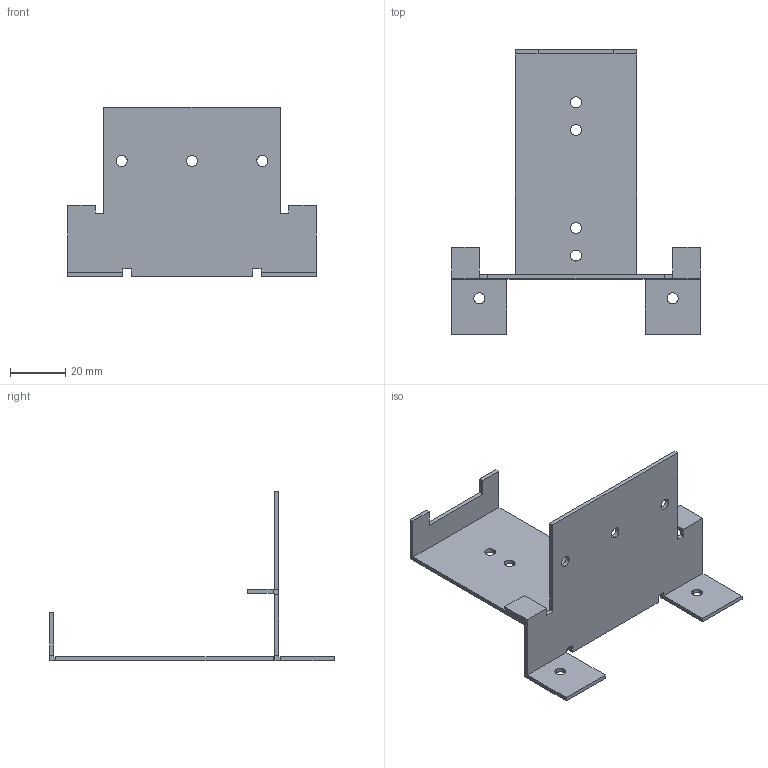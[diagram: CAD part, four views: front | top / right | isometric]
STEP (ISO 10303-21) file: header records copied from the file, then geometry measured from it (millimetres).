
FILE_DESCRIPTION(('Open CASCADE Model'),'2;1');
FILE_NAME('Open CASCADE Shape Model','2026-02-10T10:58:42',('Author'),( 'Open CASCADE'),'Open CASCADE STEP processor 7.8','Open CASCADE 7.8' ,'Unknown');
FILE_SCHEMA(('AUTOMOTIVE_DESIGN { 1 0 10303 214 1 1 1 1 }'));
Length unit declared in the file: millimetre
Products named in the file (1): Solid1
Bounding box: 90 x 103 x 61.5 mm (x, y, z)
Volume: 14381.9 mm3; surface area: 20326.5 mm2
Topology: 1 solids, 1 shells, 80 faces, 234 edges, 156 vertices
Faces by surface type: plane 62, cylinder 18
Entity records: 2680 total; most frequent: CARTESIAN_POINT 471, ORIENTED_EDGE 468, DIRECTION 432, EDGE_CURVE 234, LINE 198, VECTOR 198, VERTEX_POINT 156, AXIS2_PLACEMENT_3D 117
